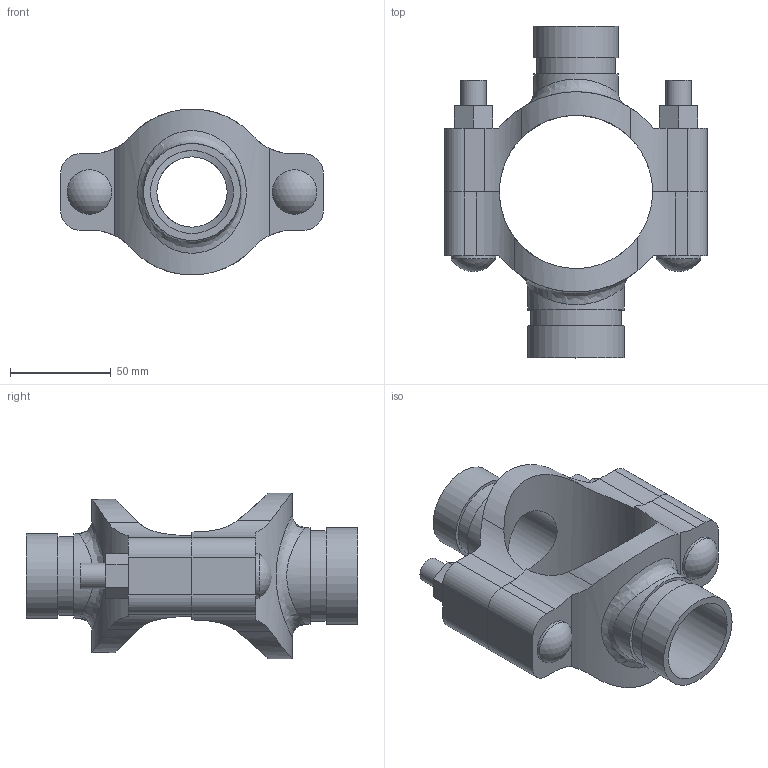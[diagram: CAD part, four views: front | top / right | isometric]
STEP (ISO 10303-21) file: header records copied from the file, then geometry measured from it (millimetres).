
FILE_DESCRIPTION(/* description */ ('VIC MECH-T BRANCH OUTLET CROSS STYLE 920N (GRVD)','CAx-IF Rec.Pracs.---Representation and Presentation of Product Manufacturing Information (PMI)---4.0---2014-10-13'),/* implementation_level */ '2;1');
FILE_NAME(/* name */ 'C:\Users\Vjadhav\AppData\Roaming\Autodesk\ApplicationPlugins\Back Up\Victaulic_IPS_Mechanical-Cross Outlet_Style 920N (OGS)\Victaulic_IPS_Mechanical-Cross Outlet_02.5 (76.1)x01.25x01.5 (65x32x40).stp',/* time_stamp */ '2020-08-06T19:43:17+05:00',/* author */ ('Vjadhav'),/* organization */ ('Victaulic'),/* preprocessor_version */ 'ST-DEVELOPER v17.2',/* originating_system */ 'Autodesk Inventor 2019',/* authorisation */ '');
FILE_SCHEMA (('AP242_MANAGED_MODEL_BASED_3D_ENGINEERING_MIM_LF { 1 0 10303 442 1 1 4 }'));
Length unit declared in the file: inch
Products named in the file (3): 920NG-02.5 (76.1)x01.25x01.5; 920NG-02.5 (76.1)x01.25; 920NG-02.5 (76.1)x01.5
Assembly tree (2 placements, depth 2):
  920NG-02.5 (76.1)x01.25x01.5
    920NG-02.5 (76.1)x01.25
    920NG-02.5 (76.1)x01.5
Bounding box: 130.56 x 165.1 x 82.55 mm (x, y, z)
Volume: 270228.4 mm3; surface area: 81296.3 mm2
Topology: 2 solids, 2 shells, 104 faces, 262 edges, 178 vertices
Faces by surface type: plane 54, cylinder 46, sphere 2, bspline 2
Full cylindrical faces by diameter (mm): 12.7 x4, 22.225 x2, 34.925 x1, 38.989 x1, 41.275 x1, 42.164 x2, 45.085 x1, 48.26 x2
Entity records: 4114 total; most frequent: CARTESIAN_POINT 1335, DIRECTION 536, ORIENTED_EDGE 524, EDGE_CURVE 262, AXIS2_PLACEMENT_3D 195, VERTEX_POINT 178, LINE 146, VECTOR 146
